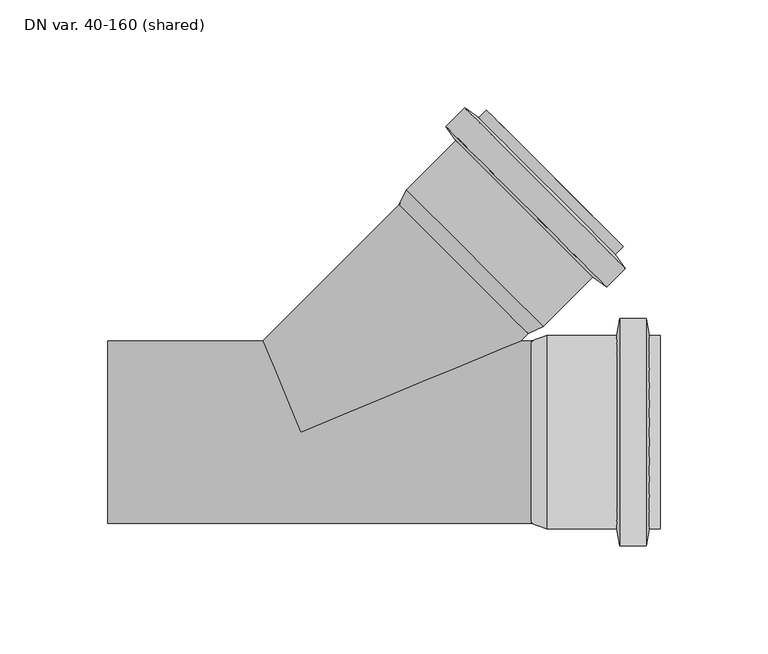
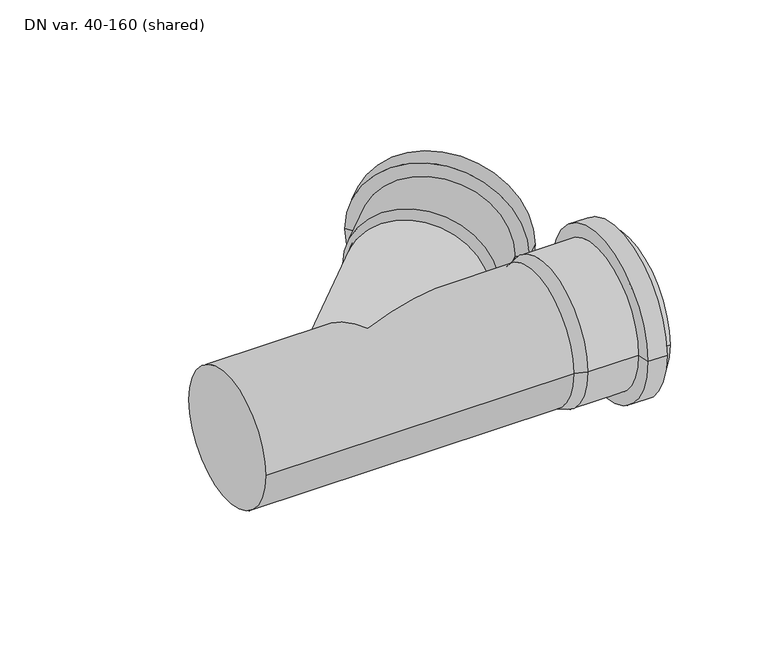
"""IFC4 building model written with IfcOpenShell, lengths in millimetres: pipe fitting geometry, ZZZ_Master 3+ branch-sh_Pipelife : DN var. 40-160 (shared)."""

from ifc_helpers import new_model, si_unit, frame, origin, place, context, project, spatial, polyline, circle_curve, ellipse_curve, source, transform, mapped, element, save
from ifc_brep_helpers import plane_surface, cylinder_surface, revolved_surface, advanced_brep


def dn_var_40_160_shared_5eefddaf(model_context):
    return source(origin(), model_context, "Body", "AdvancedBrep", [
        advanced_brep(
        [(106.9, 42.2, 0.0), (106.9, -42.2, 0.0), (166.5, -42.2, 0.0), (166.5, 42.2, 0.0), (114.0434413, 44.8, 0.0), (114.0434413, -44.8, 0.0), (146.4, 44.8, 0.0), (146.4, -44.8, 0.0), (147.788575, 52.675, 0.0), (147.788575, -52.675, 0.0), (160.011425, 52.675, 0.0), (160.011425, -52.675, 0.0), (161.4, 44.8, 0.0), (161.4, -44.8, 0.0), (166.5, 44.8, 0.0), (166.5, -44.8, 0.0)],
        [
            (0, 1, circle_curve(frame((106.9, 0.0, 0.0), z_axis=(-1.0, 0.0, 0.0), x_axis=(0.0, -1.0000000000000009, 0.0)), 42.2)),
            (1, 2),
            (2, 3, circle_curve(frame((166.5, 0.0, 0.0), z_axis=(1.0, 0.0, 0.0), x_axis=(0.0, -1.0000000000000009, 0.0)), 42.2)),
            (3, 0),
            (1, 0, circle_curve(frame((106.9, 0.0, 0.0), z_axis=(-1.0, 0.0, 0.0), x_axis=(0.0, -1.0000000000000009, 0.0)), 42.2)),
            (3, 2, circle_curve(frame((166.5, 0.0, 0.0), z_axis=(1.0, 0.0, 0.0), x_axis=(0.0, -1.0000000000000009, 0.0)), 42.2)),
            (4, 5, circle_curve(frame((114.0434413, 0.0, 0.0), z_axis=(-1.0, 0.0, 0.0), x_axis=(0.0, -1.0000000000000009, 0.0)), 44.8)),
            (5, 1),
            (0, 4),
            (5, 4, circle_curve(frame((114.0434413, 0.0, 0.0), z_axis=(-1.0, 0.0, 0.0), x_axis=(0.0, -1.0000000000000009, 0.0)), 44.8)),
            (6, 7, circle_curve(frame((146.4, 0.0, 0.0), z_axis=(-1.0, 0.0, 0.0), x_axis=(0.0, -1.0000000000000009, 0.0)), 44.8)),
            (7, 5),
            (4, 6),
            (7, 6, circle_curve(frame((146.4, 0.0, 0.0), z_axis=(-1.0, 0.0, 0.0), x_axis=(0.0, -1.0000000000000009, 0.0)), 44.8)),
            (8, 9, circle_curve(frame((147.788575, 0.0, 0.0), z_axis=(-1.0, 0.0, 0.0), x_axis=(0.0, -1.0000000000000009, 0.0)), 52.675)),
            (9, 7),
            (6, 8),
            (9, 8, circle_curve(frame((147.788575, 0.0, 0.0), z_axis=(-1.0, 0.0, 0.0), x_axis=(0.0, -1.0000000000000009, 0.0)), 52.675)),
            (10, 11, circle_curve(frame((160.011425, 0.0, 0.0), z_axis=(-1.0, 0.0, 0.0), x_axis=(0.0, -1.0000000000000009, 0.0)), 52.675)),
            (11, 9),
            (8, 10),
            (11, 10, circle_curve(frame((160.011425, 0.0, 0.0), z_axis=(-1.0, 0.0, 0.0), x_axis=(0.0, -1.0000000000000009, 0.0)), 52.675)),
            (12, 13, circle_curve(frame((161.4, 0.0, 0.0), z_axis=(-1.0, 0.0, 0.0), x_axis=(0.0, -1.0000000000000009, 0.0)), 44.8)),
            (13, 11),
            (10, 12),
            (13, 12, circle_curve(frame((161.4, 0.0, 0.0), z_axis=(-1.0, 0.0, 0.0), x_axis=(0.0, -1.0000000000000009, 0.0)), 44.8)),
            (14, 15, circle_curve(frame((166.5, 0.0, 0.0), z_axis=(-1.0, 0.0, 0.0), x_axis=(0.0, -1.0000000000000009, 0.0)), 44.8)),
            (15, 13),
            (12, 14),
            (15, 14, circle_curve(frame((166.5, 0.0, 0.0), z_axis=(-1.0, 0.0, 0.0), x_axis=(0.0, -1.0000000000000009, 0.0)), 44.8)),
            (2, 15),
            (14, 3),
        ],
        [
            revolved_surface(polyline([(166.5, -42.20000000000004, 0.0), (106.89999999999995, -42.20000000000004, 0.0)]), (176.5, 0.0, 0.0), (1.0000000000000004, 0.0, 0.0)),
            revolved_surface(polyline([(106.9, -42.2, 0.0), (114.0434413, -44.8, 0.0)]), (176.5, 0.0, 0.0), (1.0000000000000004, 0.0, 0.0)),
            cylinder_surface(frame((176.5, 0.0, 0.0), z_axis=(1.0000000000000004, 0.0, 0.0), x_axis=(0.0, -1.0000000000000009, 0.0)), 44.8),
            revolved_surface(polyline([(146.4, -44.8, 0.0), (147.788575, -52.675, 0.0)]), (176.5, 0.0, 0.0), (1.0000000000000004, 0.0, 0.0)),
            cylinder_surface(frame((176.5, 0.0, 0.0), z_axis=(1.0000000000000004, 0.0, 0.0), x_axis=(0.0, -1.0000000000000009, 0.0)), 52.675),
            revolved_surface(polyline([(160.011425, -52.675, 0.0), (161.4, -44.8, 0.0)]), (176.5, 0.0, 0.0), (1.0000000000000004, 0.0, 0.0)),
            plane_surface(frame((166.5, 0.0, 0.0), z_axis=(1.0, 0.0, 0.0), x_axis=(0.0, -1.0, 0.0))),
        ],
        [
            (0, [[1, 2, 3, 4]]),
            (0, [[5, -4, 6, -2]]),
            (1, [[7, 8, -1, 9]]),
            (1, [[10, -9, -5, -8]]),
            (2, [[11, 12, -7, 13]]),
            (2, [[14, -13, -10, -12]]),
            (3, [[15, 16, -11, 17]]),
            (3, [[18, -17, -14, -16]]),
            (4, [[19, 20, -15, 21]]),
            (4, [[22, -21, -18, -20]]),
            (5, [[23, 24, -19, 25]]),
            (5, [[26, -25, -22, -24]]),
            (2, [[27, 28, -23, 29]]),
            (2, [[30, -29, -26, -28]]),
            (6, [[-3, 31, -27, 32]]),
            (6, [[-6, -32, -30, -31]]),
        ],
    ),
        advanced_brep(
        [(45.7498087, 105.4296211, 0.0), (105.4296211, 45.7498087, 0.0), (147.5731852, 87.8933729, 0.0), (87.8933729, 147.5731852, 0.0), (48.9625069, 112.3192745, 0.0), (112.3192745, 48.9625069, 0.0), (71.842049, 135.1988166, 0.0), (135.1988166, 71.842049, 0.0), (67.2554538, 141.7491532, 0.0), (141.7491532, 67.2554538, 0.0), (75.898314, 150.3920134, 0.0), (150.3920134, 75.898314, 0.0), (82.4486507, 145.8054183, 0.0), (145.8054183, 82.4486507, 0.0), (86.0548953, 149.4116629, 0.0), (149.4116629, 86.0548953, 0.0)],
        [
            (0, 1, circle_curve(frame((75.5897149, 75.5897149, 0.0), z_axis=(-0.7071067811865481, -0.7071067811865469, 0.0), x_axis=(0.7071067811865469, -0.7071067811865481, 0.0)), 42.2)),
            (1, 2),
            (2, 3, circle_curve(frame((117.7332791, 117.7332791, 0.0), z_axis=(0.7071067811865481, 0.7071067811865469, 0.0), x_axis=(0.7071067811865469, -0.7071067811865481, 0.0)), 42.2)),
            (3, 0),
            (1, 0, circle_curve(frame((75.5897149, 75.5897149, 0.0), z_axis=(-0.7071067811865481, -0.7071067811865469, 0.0), x_axis=(0.7071067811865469, -0.7071067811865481, 0.0)), 42.2)),
            (3, 2, circle_curve(frame((117.7332791, 117.7332791, 0.0), z_axis=(0.7071067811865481, 0.7071067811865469, 0.0), x_axis=(0.7071067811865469, -0.7071067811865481, 0.0)), 42.2)),
            (4, 5, circle_curve(frame((80.6408907, 80.6408907, 0.0), z_axis=(-0.7071067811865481, -0.7071067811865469, 0.0), x_axis=(0.7071067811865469, -0.7071067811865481, 0.0)), 44.8)),
            (5, 1),
            (0, 4),
            (5, 4, circle_curve(frame((80.6408907, 80.6408907, 0.0), z_axis=(-0.7071067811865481, -0.7071067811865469, 0.0), x_axis=(0.7071067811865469, -0.7071067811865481, 0.0)), 44.8)),
            (6, 7, circle_curve(frame((103.5204328, 103.5204328, 0.0), z_axis=(-0.7071067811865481, -0.7071067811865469, 0.0), x_axis=(0.7071067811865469, -0.7071067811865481, 0.0)), 44.8)),
            (7, 5),
            (4, 6),
            (7, 6, circle_curve(frame((103.5204328, 103.5204328, 0.0), z_axis=(-0.7071067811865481, -0.7071067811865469, 0.0), x_axis=(0.7071067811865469, -0.7071067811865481, 0.0)), 44.8)),
            (8, 9, circle_curve(frame((104.5023035, 104.5023035, 0.0), z_axis=(-0.7071067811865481, -0.7071067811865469, 0.0), x_axis=(0.7071067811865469, -0.7071067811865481, 0.0)), 52.675)),
            (9, 7),
            (6, 8),
            (9, 8, circle_curve(frame((104.5023035, 104.5023035, 0.0), z_axis=(-0.7071067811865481, -0.7071067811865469, 0.0), x_axis=(0.7071067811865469, -0.7071067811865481, 0.0)), 52.675)),
            (10, 11, circle_curve(frame((113.1451637, 113.1451637, 0.0), z_axis=(-0.7071067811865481, -0.7071067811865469, 0.0), x_axis=(0.7071067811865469, -0.7071067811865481, 0.0)), 52.675)),
            (11, 9),
            (8, 10),
            (11, 10, circle_curve(frame((113.1451637, 113.1451637, 0.0), z_axis=(-0.7071067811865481, -0.7071067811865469, 0.0), x_axis=(0.7071067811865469, -0.7071067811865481, 0.0)), 52.675)),
            (12, 13, circle_curve(frame((114.1270345, 114.1270345, 0.0), z_axis=(-0.7071067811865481, -0.7071067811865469, 0.0), x_axis=(0.7071067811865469, -0.7071067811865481, 0.0)), 44.8)),
            (13, 11),
            (10, 12),
            (13, 12, circle_curve(frame((114.1270345, 114.1270345, 0.0), z_axis=(-0.7071067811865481, -0.7071067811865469, 0.0), x_axis=(0.7071067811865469, -0.7071067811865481, 0.0)), 44.8)),
            (14, 15, circle_curve(frame((117.7332791, 117.7332791, 0.0), z_axis=(-0.7071067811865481, -0.7071067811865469, 0.0), x_axis=(0.7071067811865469, -0.7071067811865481, 0.0)), 44.8)),
            (15, 13),
            (12, 14),
            (15, 14, circle_curve(frame((117.7332791, 117.7332791, 0.0), z_axis=(-0.7071067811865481, -0.7071067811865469, 0.0), x_axis=(0.7071067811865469, -0.7071067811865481, 0.0)), 44.8)),
            (2, 15),
            (14, 3),
        ],
        [
            revolved_surface(polyline([(147.57318526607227, 87.89337293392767, 0.0), (105.42962106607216, 45.74980873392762, 0.0)]), (124.8043469, 124.8043469, 0.0), (0.7071067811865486, 0.7071067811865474, 0.0)),
            revolved_surface(polyline([(105.4296211, 45.7498087, 0.0), (112.3192745, 48.9625069, 0.0)]), (124.8043469, 124.8043469, 0.0), (0.7071067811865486, 0.7071067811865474, 0.0)),
            cylinder_surface(frame((124.8043469, 124.8043469, 0.0), z_axis=(0.7071067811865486, 0.7071067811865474, 0.0), x_axis=(0.7071067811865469, -0.7071067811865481, 0.0)), 44.8),
            revolved_surface(polyline([(135.1988166, 71.842049, 0.0), (141.7491532, 67.2554538, 0.0)]), (124.8043469, 124.8043469, 0.0), (0.7071067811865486, 0.7071067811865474, 0.0)),
            cylinder_surface(frame((124.8043469, 124.8043469, 0.0), z_axis=(0.7071067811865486, 0.7071067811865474, 0.0), x_axis=(0.7071067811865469, -0.7071067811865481, 0.0)), 52.675),
            revolved_surface(polyline([(150.3920134, 75.898314, 0.0), (145.8054183, 82.4486507, 0.0)]), (124.8043469, 124.8043469, 0.0), (0.7071067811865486, 0.7071067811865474, 0.0)),
            plane_surface(frame((117.7332791, 117.7332791, 0.0), z_axis=(0.7071067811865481, 0.7071067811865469, 0.0), x_axis=(0.7071067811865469, -0.7071067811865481, 0.0))),
        ],
        [
            (0, [[1, 2, 3, 4]]),
            (0, [[5, -4, 6, -2]]),
            (1, [[7, 8, -1, 9]]),
            (1, [[10, -9, -5, -8]]),
            (2, [[11, 12, -7, 13]]),
            (2, [[14, -13, -10, -12]]),
            (3, [[15, 16, -11, 17]]),
            (3, [[18, -17, -14, -16]]),
            (4, [[19, 20, -15, 21]]),
            (4, [[22, -21, -18, -20]]),
            (5, [[23, 24, -19, 25]]),
            (5, [[26, -25, -22, -24]]),
            (2, [[27, 28, -23, 29]]),
            (2, [[30, -29, -26, -28]]),
            (6, [[-3, 31, -27, 32]]),
            (6, [[-6, -32, -30, -31]]),
        ],
    ),
        advanced_brep(
        [(-89.3, -42.2, 0.0), (-89.3, 42.2, 0.0), (106.9, -42.2, 0.0), (106.9, 0.0, 42.2), (106.9, 42.2, 0.0), (101.8798123, 42.2, 0.0), (0.0, 0.0, 42.2), (-17.4798123, 42.2, 0.0), (0.0, 0.0, -42.2), (106.9, 0.0, -42.2), (105.4296211, 45.7498087, 0.0), (45.7498087, 105.4296211, 0.0)],
        [
            (0, 1, circle_curve(frame((-89.3, 0.0, 0.0), z_axis=(-1.0, 0.0, 0.0), x_axis=(0.0, 1.0, 0.0)), 42.2)),
            (1, 0, circle_curve(frame((-89.3, 0.0, 0.0), z_axis=(-1.0, 0.0, 0.0), x_axis=(0.0, 1.0, 0.0)), 42.2)),
            (0, 2),
            (2, 3, circle_curve(frame((106.9, 0.0, 0.0), z_axis=(-1.0, 0.0, 0.0), x_axis=(0.0, 1.0, 0.0)), 42.2)),
            (3, 4, circle_curve(frame((106.9, 0.0, 0.0), z_axis=(-1.0, 0.0, 0.0), x_axis=(0.0, 1.0, 0.0)), 42.2)),
            (4, 5),
            (5, 6, ellipse_curve(frame((0.0, 0.0, 0.0), z_axis=(0.3826834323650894, -0.9238795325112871, 0.0), x_axis=(-0.923879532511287, -0.38268343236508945, 0.0)), 110.2739142, 42.2)),
            (6, 7, ellipse_curve(frame((0.0, 0.0, 0.0), z_axis=(-0.923879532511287, -0.38268343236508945, 0.0), x_axis=(-0.38268343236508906, 0.9238795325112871, 0.0)), 45.6769509, 42.2)),
            (7, 1),
            (7, 8, ellipse_curve(frame((0.0, 0.0, 0.0), z_axis=(-0.923879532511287, -0.38268343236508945, 0.0), x_axis=(-0.38268343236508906, 0.9238795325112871, 0.0)), 45.6769509, 42.2)),
            (8, 5, ellipse_curve(frame((0.0, 0.0, 0.0), z_axis=(0.3826834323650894, -0.9238795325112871, 0.0), x_axis=(-0.923879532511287, -0.38268343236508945, 0.0)), 110.2739142, 42.2)),
            (4, 9, circle_curve(frame((106.9, 0.0, 0.0), z_axis=(-1.0, 0.0, 0.0), x_axis=(0.0, 1.0, 0.0)), 42.2)),
            (9, 2, circle_curve(frame((106.9, 0.0, 0.0), z_axis=(-1.0, 0.0, 0.0), x_axis=(0.0, 1.0, 0.0)), 42.2)),
            (10, 11, circle_curve(frame((75.5897149, 75.5897149, 0.0), z_axis=(0.7071067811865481, 0.707106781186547, 0.0), x_axis=(-0.707106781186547, 0.7071067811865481, 0.0)), 42.2)),
            (11, 10, circle_curve(frame((75.5897149, 75.5897149, 0.0), z_axis=(0.7071067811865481, 0.707106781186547, 0.0), x_axis=(-0.707106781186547, 0.7071067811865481, 0.0)), 42.2)),
            (11, 7),
            (5, 10),
        ],
        [
            plane_surface(frame((-89.3, 0.0, 0.0), z_axis=(-1.0, 0.0, 0.0), x_axis=(0.0, 0.0, 1.0))),
            cylinder_surface(frame((-89.3, 0.0, 0.0), z_axis=(-1.0, 0.0, 0.0), x_axis=(0.0, 1.0, 0.0)), 42.2),
            plane_surface(frame((75.5897149, 75.5897149, 0.0), z_axis=(0.7071067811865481, 0.707106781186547, 0.0), x_axis=(0.0, 0.0, 1.0))),
            cylinder_surface(frame((0.0, 0.0, 0.0), z_axis=(-0.7071067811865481, -0.707106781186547, 0.0), x_axis=(-0.707106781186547, 0.7071067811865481, 0.0)), 42.2),
            plane_surface(frame((106.9, 0.0, -42.2), z_axis=(1.0, 0.0, 0.0), x_axis=(0.0, -1.0, 0.0))),
        ],
        [
            (0, [[1, 2]]),
            (1, [[-1, 3, 4, 5, 6, 7, 8, 9]]),
            (1, [[-2, -9, 10, 11, -6, 12, 13, -3]]),
            (2, [[14, 15]]),
            (3, [[-15, 16, -8, -7, 17]]),
            (3, [[-14, -17, -11, -10, -16]]),
            (4, [[-4, -13, -12, -5]]),
        ],
    ),
    ])


if __name__ == "__main__":
    model = new_model("IFC4")
    model_context = context("Model", 3, world=origin())
    ifc_project = project(units=[si_unit("LENGTHUNIT", "METRE", prefix="MILLI")], contexts=[model_context])
    site = spatial("IfcSite", under=ifc_project)
    building = spatial("IfcBuilding", under=site)
    placement = place(None, origin())
    dn_var_40_160_shared_shape = dn_var_40_160_shared_5eefddaf(model_context)
    element("IfcPipeFitting", 1, ObjectType="ZZZ_Master 3+ branch-sh_Pipelife : DN var. 40-160 (shared)", at=placement, inside=building, context=model_context, shape_type="MappedRepresentation", body=[
        mapped(dn_var_40_160_shared_shape, transform((0.0, 0.0, 0.0), x_axis=(1.0, 0.0, 0.0), y_axis=(0.0, 1.0, 0.0), z_axis=(0.0, 0.0, 1.0))),
    ])
    save(model, "model.ifc")
